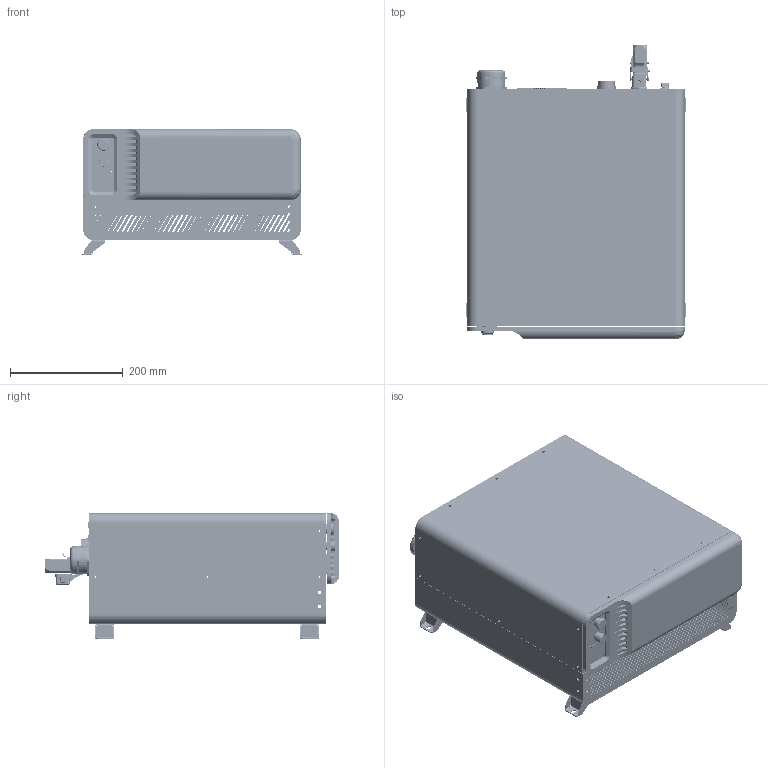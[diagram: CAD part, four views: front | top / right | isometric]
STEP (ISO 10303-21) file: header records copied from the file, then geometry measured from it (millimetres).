
FILE_DESCRIPTION(/* description */ (''),/* implementation_level */ '2;1');
FILE_NAME(/* name */ 'A3.01电柜.stp',/* time_stamp */ '2024-10-21T10:23:49+08:00',/* author */ (''),/* organization */ (''),/* preprocessor_version */ 'ST-DEVELOPER v16.7',/* originating_system */ 'SIEMENS PLM Software NX 12.0',/* authorisation */ '');
FILE_SCHEMA (('AUTOMOTIVE_DESIGN { 1 0 10303 214 3 1 1 1 }'));
Products named in the file (1): A3.01电柜
Bounding box: 389 x 522.21 x 223.5 mm (x, y, z)
Volume: 1402037.2 mm3; surface area: 1965176.1 mm2
Topology: 124 solids, 128 shells, 17526 faces, 48665 edges, 31865 vertices
Faces by surface type: plane 11907, cylinder 5132, cone 186, torus 162, sphere 76, bspline 59, extrusion 4
Full cylindrical faces by diameter (mm): 0.2 x152, 0.92 x1, 1.3 x5, 1.8 x1, 2 x9, 2.1 x2, 2.5 x20, 3.05 x1, 3.2 x46, 3.242 x56, 3.3 x11, 3.4 x1, 3.5 x8, 3.6 x14, 4 x44, 4.2 x1, 4.216 x1, 4.4 x6, 4.475 x14, 4.7 x4, 4.8 x2, 5.18 x48, 5.38 x48, 5.5 x46, 5.8 x1, 5.816 x9, 5.9 x14, 6 x2, 6.32 x8, 6.4 x1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
Entity records: 588409 total; most frequent: CARTESIAN_POINT 127780, ORIENTED_EDGE 94970, DIRECTION 92296, EDGE_CURVE 47485, VECTOR 36132, LINE 36128, VERTEX_POINT 31597, AXIS2_PLACEMENT_3D 28082
